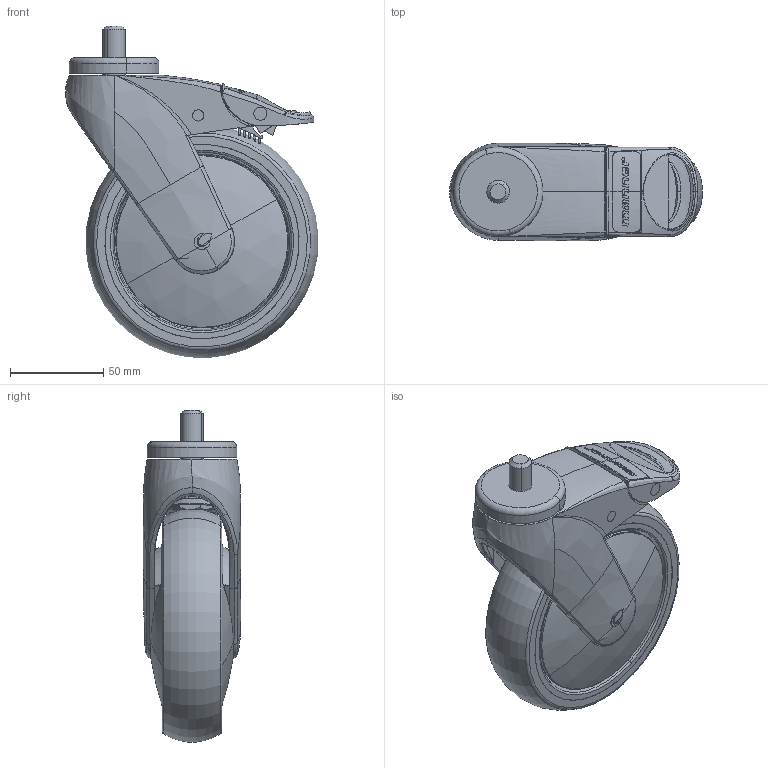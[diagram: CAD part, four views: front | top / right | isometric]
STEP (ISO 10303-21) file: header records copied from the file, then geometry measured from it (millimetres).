
FILE_DESCRIPTION (( 'STEP AP203' ), '1' );
FILE_NAME ('301681_STEP.STEP', '2011-06-10T11:41:42', ( '' ), ( '' ), 'SwSTEP 2.0', 'SolidWorks 2011', '' );
FILE_SCHEMA (( 'CONFIG_CONTROL_DESIGN' ));
Length unit declared in the file: millimetre
Products named in the file (1): 301681_STEP
Bounding box: 135.31 x 52 x 177.66 mm (x, y, z)
Surface area: 114269.1 mm2 (no closed solid volume)
Topology: 0 solids, 32 shells, 547 faces, 2633 edges, 2055 vertices
Faces by surface type: bspline 283, plane 117, cylinder 69, torus 43, cone 31, sphere 4
Entity records: 93319 total; most frequent: CARTESIAN_POINT 76760, ORIENTED_EDGE 4231, EDGE_CURVE 2622, VERTEX_POINT 2055, DIRECTION 1756, B_SPLINE_CURVE_WITH_KNOTS 1703, AXIS2_PLACEMENT_3D 646, EDGE_LOOP 580
